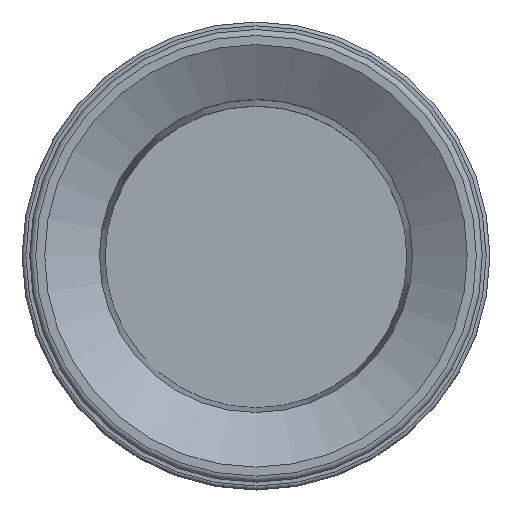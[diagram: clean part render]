
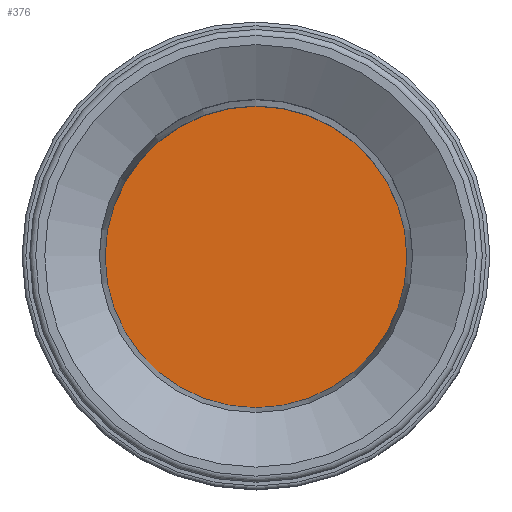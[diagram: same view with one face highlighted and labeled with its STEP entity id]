
A CAD part, top view. The second image highlights one B-rep face of the part: STEP entity #376.
In plain terms, the highlighted planar face has unit normal (0, 0, 1) as drawn and (0, 0, -1) by its records, which use the part's own axes.
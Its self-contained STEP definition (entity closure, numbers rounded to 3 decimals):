
#376=ADVANCED_FACE('',(#592),#593,.F.);
#592=FACE_OUTER_BOUND('',#924,.T.);
#593=PLANE('',#925);
#924=EDGE_LOOP('',(#1459));
#925=AXIS2_PLACEMENT_3D('',#1460,#1461,#1462);
#1459=ORIENTED_EDGE('',*,*,#2138,.T.);
#1460=CARTESIAN_POINT('',(-20.0,0.,99.5));
#1461=DIRECTION('',(0.0,0.,1.0));
#1462=DIRECTION('',(0.0,-1.0,0.));
#2138=EDGE_CURVE('',#2477,#2477,#2478,.T.);
#2477=VERTEX_POINT('',#3048);
#2478=CIRCLE('',#3049,20.0);
#3048=CARTESIAN_POINT('',(0.0,20.0,99.5));
#3049=AXIS2_PLACEMENT_3D('',#3755,#3756,#3757);
#3755=CARTESIAN_POINT('',(0.0,0.,99.5));
#3756=DIRECTION('',(0.0,0.,-1.0));
#3757=DIRECTION('',(0.0,1.0,0.));
